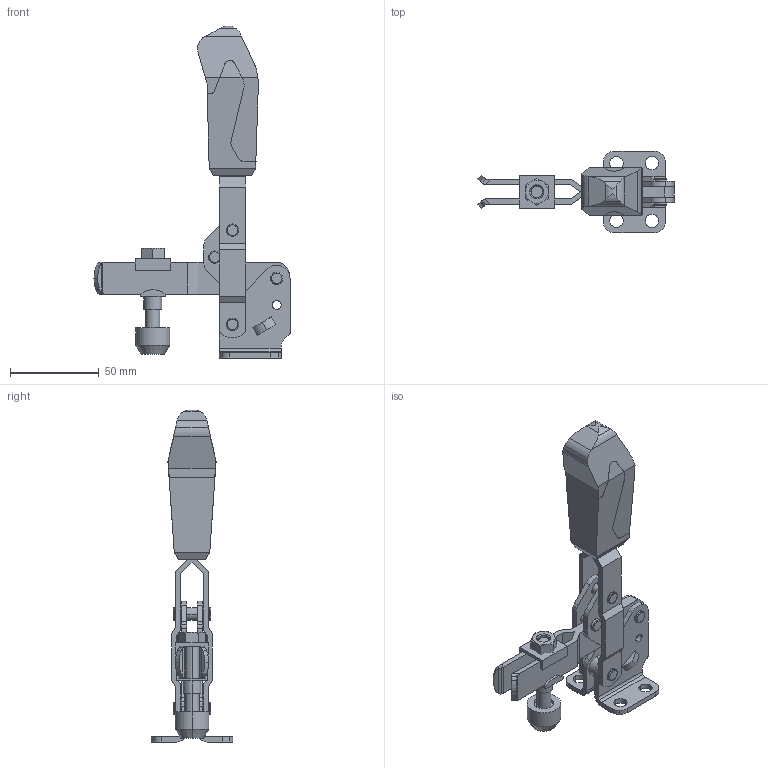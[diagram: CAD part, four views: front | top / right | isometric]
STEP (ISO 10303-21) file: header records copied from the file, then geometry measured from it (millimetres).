
FILE_DESCRIPTION(('STEP AP214'),'1');
FILE_NAME('cctmp_CBFCA588-4574-4945-B4B8-42CC54141B56_2019_10_11_11_6_38_824..stp','2019-10-11T09:06:39',('Meusburger Georg GmbH & Co KG'),('CADClick - www.CADClick.com'),'Spatial InterOp 3D',' ','unknown authorization');
FILE_SCHEMA(('AUTOMOTIVE_DESIGN { 1 0 10303 214 1 1 1 1 }'));
Length unit declared in the file: millimetre
Products named in the file (12): HWS 2002_3; E 90200_8; HWS 204_3
Assembly tree (11 placements, depth 3):
  HWS 204_3
    HWS 2002_3
      E 90200_8
      HWS 2002_3
      HWS 2002_3
      HWS 2002_3
      HWS 2002_3
    HWS 204_3
    HWS 204_3
    HWS 204_3
    HWS 204_3
    HWS 204_3
Bounding box: 110.74 x 46 x 187.5 mm (x, y, z)
Volume: 97919 mm3; surface area: 44174.3 mm2
Topology: 10 solids, 10 shells, 485 faces, 1251 edges, 808 vertices
Faces by surface type: cylinder 242, plane 171, torus 40, cone 32
Entity records: 19401 total; most frequent: CARTESIAN_POINT 3311, DIRECTION 2549, ORIENTED_EDGE 2502, EDGE_CURVE 1251, AXIS2_PLACEMENT_3D 998, VERTEX_POINT 808, LINE 553, VECTOR 553
